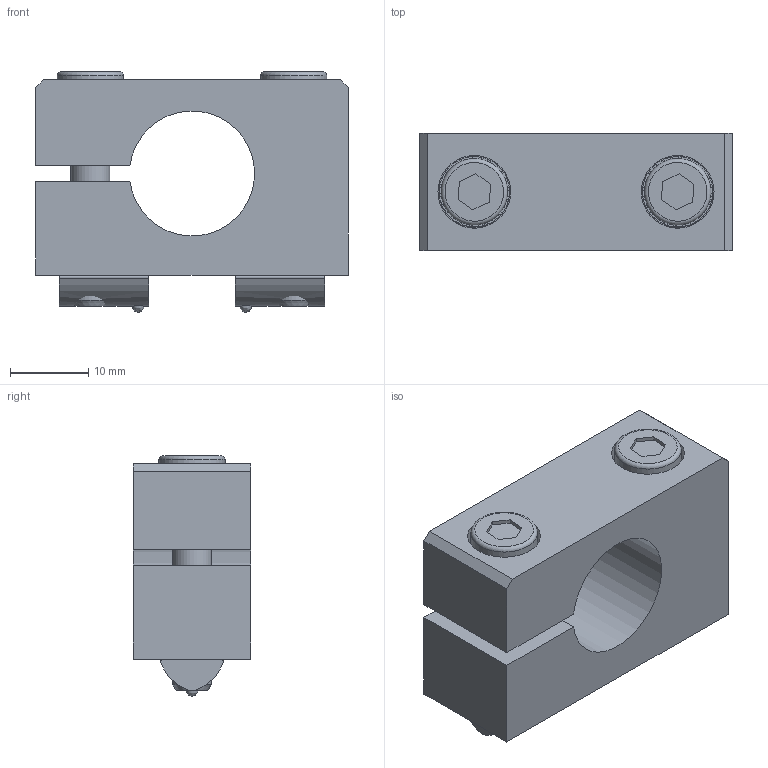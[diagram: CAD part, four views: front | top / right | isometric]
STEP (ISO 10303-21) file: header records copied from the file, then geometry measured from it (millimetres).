
FILE_DESCRIPTION(('STEP AP214'),'1');
FILE_NAME('CA.03.12.003.5.stp','2017-03-16T10:26:41',(' '),(' '),'Spatial InterOp 3D',' ',' ');
FILE_SCHEMA(('automotive_design'));
Length unit declared in the file: millimetre
Products named in the file (6): CA.02.05.003; V-tcei M  5 x 25; CA.03.12.003; 03.12.003; R.5.SCH
Assembly tree (8 placements, depth 3):
  (unnamed)
    CA.02.05.003  x2
    V-tcei M  5 x 25  x2
    CA.03.12.003
      03.12.003
    R.5.SCH  x2
Bounding box: 40 x 15 x 30.73 mm (x, y, z)
Volume: 12057.7 mm3; surface area: 7471.7 mm2
Topology: 5 solids, 7 shells, 463 faces, 1340 edges, 889 vertices
Faces by surface type: plane 423, cylinder 32, torus 4, bspline 2, cone 2
Full cylindrical faces by diameter (mm): 4.2 x2, 5 x2, 5.25 x3, 5.3 x2, 8.5 x2, 9 x2, 9.3 x2
Entity records: 10039 total; most frequent: CARTESIAN_POINT 1497, DIRECTION 1391, ORIENTED_EDGE 1350, EDGE_CURVE 675, AXIS2_PLACEMENT_3D 474, VERTEX_POINT 456, LINE 443, VECTOR 443
